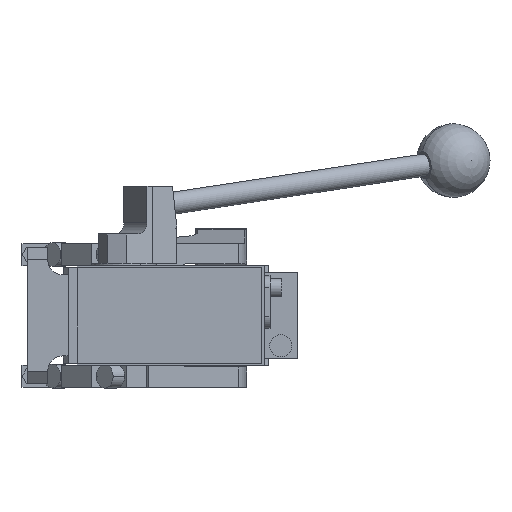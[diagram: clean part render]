
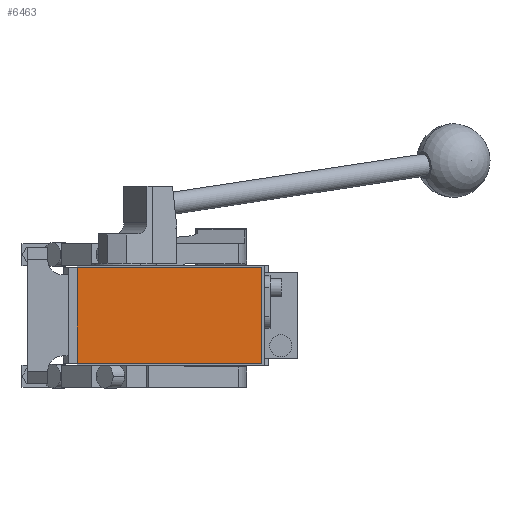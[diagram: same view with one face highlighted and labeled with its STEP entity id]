
A CAD part, front view. The second image highlights one B-rep face of the part: STEP entity #6463.
In plain terms, the highlighted planar face has unit normal (0, -1, 0).
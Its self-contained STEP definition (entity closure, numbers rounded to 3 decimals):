
#294 = VERTEX_POINT ( 'NONE', #14098 ) ;
#949 = VECTOR ( 'NONE', #10598, 1000. ) ;
#981 = LINE ( 'NONE', #5968, #13733 ) ;
#1078 = VECTOR ( 'NONE', #12948, 1000. ) ;
#1080 = VERTEX_POINT ( 'NONE', #5140 ) ;
#1208 = FACE_OUTER_BOUND ( 'NONE', #1304, .T. ) ;
#1304 = EDGE_LOOP ( 'NONE', ( #7123, #14204, #12048, #4866 ) ) ;
#1366 = CARTESIAN_POINT ( 'NONE',  ( 81., -286.5, -26. ) ) ;
#2495 = PLANE ( 'NONE',  #5642 ) ;
#2780 = LINE ( 'NONE', #9132, #1078 ) ;
#3413 = CARTESIAN_POINT ( 'NONE',  ( -19., -286.5, 26. ) ) ;
#3722 = VECTOR ( 'NONE', #13705, 1000. ) ;
#4239 = VERTEX_POINT ( 'NONE', #1366 ) ;
#4866 = ORIENTED_EDGE ( 'NONE', *, *, #10954, .T. ) ;
#5140 = CARTESIAN_POINT ( 'NONE',  ( 81., -286.5, 26. ) ) ;
#5642 = AXIS2_PLACEMENT_3D ( 'NONE', #7531, #5954, #9901 ) ;
#5881 = CARTESIAN_POINT ( 'NONE',  ( 81., -286.5, 26. ) ) ;
#5954 = DIRECTION ( 'NONE',  ( 0., -1., 0. ) ) ;
#5968 = CARTESIAN_POINT ( 'NONE',  ( -19., -286.5, 26. ) ) ;
#6463 = ADVANCED_FACE ( 'NONE', ( #1208 ), #2495, .T. ) ;
#7123 = ORIENTED_EDGE ( 'NONE', *, *, #11243, .T. ) ;
#7531 = CARTESIAN_POINT ( 'NONE',  ( 0., -286.5, 0. ) ) ;
#8457 = LINE ( 'NONE', #8618, #3722 ) ;
#8618 = CARTESIAN_POINT ( 'NONE',  ( -19., -286.5, -26. ) ) ;
#8668 = EDGE_CURVE ( 'NONE', #4239, #1080, #12187, .T. ) ;
#9132 = CARTESIAN_POINT ( 'NONE',  ( -19., -286.5, 26. ) ) ;
#9432 = DIRECTION ( 'NONE',  ( 0., 0., -1. ) ) ;
#9901 = DIRECTION ( 'NONE',  ( 0., 0., -1. ) ) ;
#10598 = DIRECTION ( 'NONE',  ( 0., 0., 1. ) ) ;
#10954 = EDGE_CURVE ( 'NONE', #1080, #15211, #2780, .T. ) ;
#11243 = EDGE_CURVE ( 'NONE', #15211, #294, #981, .T. ) ;
#12048 = ORIENTED_EDGE ( 'NONE', *, *, #8668, .T. ) ;
#12187 = LINE ( 'NONE', #5881, #949 ) ;
#12948 = DIRECTION ( 'NONE',  ( -1., 0., 0. ) ) ;
#13705 = DIRECTION ( 'NONE',  ( 1., 0., 0. ) ) ;
#13733 = VECTOR ( 'NONE', #9432, 1000. ) ;
#13919 = EDGE_CURVE ( 'NONE', #294, #4239, #8457, .T. ) ;
#14098 = CARTESIAN_POINT ( 'NONE',  ( -19., -286.5, -26. ) ) ;
#14204 = ORIENTED_EDGE ( 'NONE', *, *, #13919, .T. ) ;
#15211 = VERTEX_POINT ( 'NONE', #3413 ) ;
